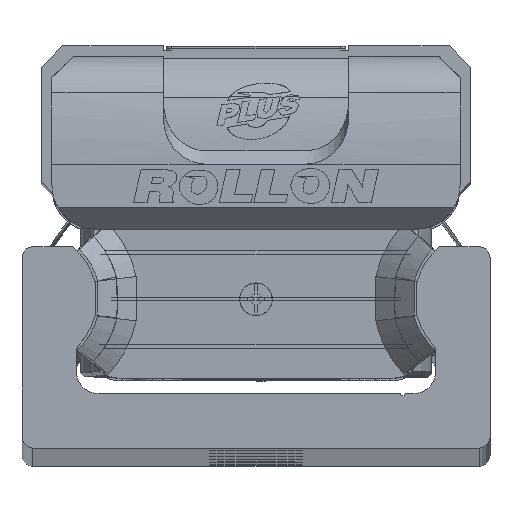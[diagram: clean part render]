
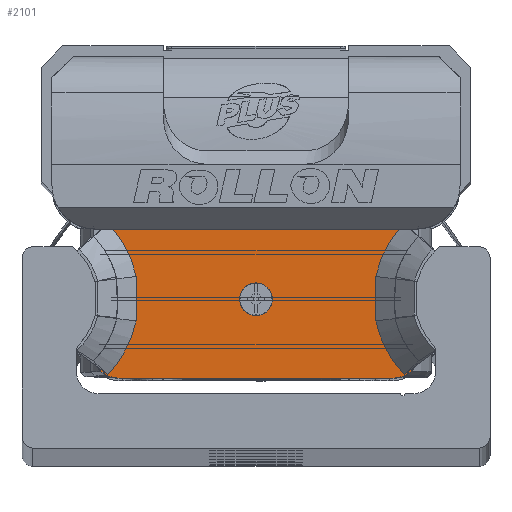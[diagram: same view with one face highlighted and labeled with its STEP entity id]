
A CAD part, top view. The second image highlights one B-rep face of the part: STEP entity #2101.
In plain terms, the highlighted planar face has unit normal (0, 0, 1) as drawn and (0, 0, -1) by its records, which use the part's own axes.
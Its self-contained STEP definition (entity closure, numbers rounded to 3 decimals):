
#2101 = ADVANCED_FACE( '', ( #4333, #4334 ), #4335, .F. );
#4333 = FACE_BOUND( '', #6683, .T. );
#4334 = FACE_OUTER_BOUND( '', #6684, .T. );
#4335 = PLANE( '', #6685 );
#6683 = EDGE_LOOP( '', ( #12362 ) );
#6684 = EDGE_LOOP( '', ( #12363, #12364, #12365, #12366, #12367, #12368, #12369, #12370, #12371, #12372, #12373, #12374 ) );
#6685 = AXIS2_PLACEMENT_3D( '', #12375, #12376, #12377 );
#12362 = ORIENTED_EDGE( '', *, *, #13072, .T. );
#12363 = ORIENTED_EDGE( '', *, *, #14653, .T. );
#12364 = ORIENTED_EDGE( '', *, *, #14231, .F. );
#12365 = ORIENTED_EDGE( '', *, *, #14436, .T. );
#12366 = ORIENTED_EDGE( '', *, *, #14289, .F. );
#12367 = ORIENTED_EDGE( '', *, *, #12973, .T. );
#12368 = ORIENTED_EDGE( '', *, *, #12500, .T. );
#12369 = ORIENTED_EDGE( '', *, *, #14054, .T. );
#12370 = ORIENTED_EDGE( '', *, *, #14543, .T. );
#12371 = ORIENTED_EDGE( '', *, *, #14569, .T. );
#12372 = ORIENTED_EDGE( '', *, *, #14637, .T. );
#12373 = ORIENTED_EDGE( '', *, *, #14506, .T. );
#12374 = ORIENTED_EDGE( '', *, *, #14414, .T. );
#12375 = CARTESIAN_POINT( '', ( 14.9, 7.35, -13.25 ) );
#12376 = DIRECTION( '', ( 0., 0., 1. ) );
#12377 = DIRECTION( '', ( 1., 0., 0. ) );
#12500 = EDGE_CURVE( '', #14758, #14756, #14759, .T. );
#12973 = EDGE_CURVE( '', #15509, #14758, #15586, .T. );
#13072 = EDGE_CURVE( '', #15749, #15749, #15750, .T. );
#14054 = EDGE_CURVE( '', #14756, #17245, #17247, .T. );
#14231 = EDGE_CURVE( '', #17482, #15163, #17484, .T. );
#14289 = EDGE_CURVE( '', #15509, #17553, #17554, .T. );
#14414 = EDGE_CURVE( '', #17699, #17697, #17700, .T. );
#14436 = EDGE_CURVE( '', #17482, #17553, #17727, .T. );
#14506 = EDGE_CURVE( '', #17808, #17699, #17809, .T. );
#14543 = EDGE_CURVE( '', #17245, #17849, #17851, .T. );
#14569 = EDGE_CURVE( '', #17849, #17879, #17881, .T. );
#14637 = EDGE_CURVE( '', #17879, #17808, #17953, .T. );
#14653 = EDGE_CURVE( '', #17697, #15163, #17969, .T. );
#14756 = VERTEX_POINT( '', #18080 );
#14758 = VERTEX_POINT( '', #18083 );
#14759 = B_SPLINE_CURVE_WITH_KNOTS( '', 2, ( #18084, #18085, #18086, #18087, #18088 ), .UNSPECIFIED., .F., .F., ( 3, 2, 3 ), ( 0., 0.5, 1. ), .UNSPECIFIED. );
#15163 = VERTEX_POINT( '', #18594 );
#15509 = VERTEX_POINT( '', #19087 );
#15586 = B_SPLINE_CURVE_WITH_KNOTS( '', 1, ( #19193, #19194 ), .UNSPECIFIED., .F., .F., ( 2, 2 ), ( 0., 1. ), .UNSPECIFIED. );
#15749 = VERTEX_POINT( '', #19413 );
#15750 = CIRCLE( '', #19414, 1.5 );
#17245 = VERTEX_POINT( '', #21629 );
#17247 = B_SPLINE_CURVE_WITH_KNOTS( '', 2, ( #21632, #21633, #21634 ), .UNSPECIFIED., .F., .F., ( 3, 3 ), ( 0., 1. ), .UNSPECIFIED. );
#17482 = VERTEX_POINT( '', #21957 );
#17484 = CIRCLE( '', #21960, 2.5 );
#17553 = VERTEX_POINT( '', #22054 );
#17554 = CIRCLE( '', #22055, 2.5 );
#17697 = VERTEX_POINT( '', #22257 );
#17699 = VERTEX_POINT( '', #22260 );
#17700 = B_SPLINE_CURVE_WITH_KNOTS( '', 2, ( #22261, #22262, #22263, #22264, #22265 ), .UNSPECIFIED., .F., .F., ( 3, 2, 3 ), ( 0., 0.5, 1. ), .UNSPECIFIED. );
#17727 = LINE( '', #22296, #22297 );
#17808 = VERTEX_POINT( '', #22410 );
#17809 = B_SPLINE_CURVE_WITH_KNOTS( '', 2, ( #22411, #22412, #22413 ), .UNSPECIFIED., .F., .F., ( 3, 3 ), ( 0., 1. ), .UNSPECIFIED. );
#17849 = VERTEX_POINT( '', #22464 );
#17851 = B_SPLINE_CURVE_WITH_KNOTS( '', 2, ( #22469, #22470, #22471, #22472, #22473 ), .UNSPECIFIED., .F., .F., ( 3, 2, 3 ), ( 0., 0.5, 0.868 ), .UNSPECIFIED. );
#17879 = VERTEX_POINT( '', #22507 );
#17881 = LINE( '', #22512, #22513 );
#17953 = B_SPLINE_CURVE_WITH_KNOTS( '', 2, ( #22622, #22623, #22624, #22625, #22626 ), .UNSPECIFIED., .F., .F., ( 3, 2, 3 ), ( 0.133, 0.5, 1. ), .UNSPECIFIED. );
#17969 = B_SPLINE_CURVE_WITH_KNOTS( '', 1, ( #22644, #22645 ), .UNSPECIFIED., .F., .F., ( 2, 2 ), ( 0., 1. ), .UNSPECIFIED. );
#18080 = CARTESIAN_POINT( '', ( -11.012, -2.045, -13.25 ) );
#18083 = CARTESIAN_POINT( '', ( -13.628, -6.965, -13.25 ) );
#18084 = CARTESIAN_POINT( '', ( -13.628, -6.965, -13.25 ) );
#18085 = CARTESIAN_POINT( '', ( -12.638, -5.946, -13.25 ) );
#18086 = CARTESIAN_POINT( '', ( -11.97, -4.691, -13.25 ) );
#18087 = CARTESIAN_POINT( '', ( -11.303, -3.437, -13.25 ) );
#18088 = CARTESIAN_POINT( '', ( -11.012, -2.045, -13.25 ) );
#18594 = CARTESIAN_POINT( '', ( 14.906, -5.717, -13.25 ) );
#19087 = CARTESIAN_POINT( '', ( -14.904, -5.718, -13.25 ) );
#19193 = CARTESIAN_POINT( '', ( -14.915, -5.713, -13.25 ) );
#19194 = CARTESIAN_POINT( '', ( -13.628, -6.965, -13.25 ) );
#19413 = CARTESIAN_POINT( '', ( 1.5, -0.05, -13.25 ) );
#19414 = AXIS2_PLACEMENT_3D( '', #23595, #23596, #23597 );
#21629 = CARTESIAN_POINT( '', ( -11.012, 2.045, -13.25 ) );
#21632 = CARTESIAN_POINT( '', ( -11.012, -2.045, -13.25 ) );
#21633 = CARTESIAN_POINT( '', ( -10.888, 0., -13.25 ) );
#21634 = CARTESIAN_POINT( '', ( -11.012, 2.045, -13.25 ) );
#21957 = CARTESIAN_POINT( '', ( 12.58, -7.3, -13.25 ) );
#21960 = AXIS2_PLACEMENT_3D( '', #25080, #25081, #25082 );
#22054 = CARTESIAN_POINT( '', ( -12.58, -7.3, -13.25 ) );
#22055 = AXIS2_PLACEMENT_3D( '', #25127, #25128, #25129 );
#22257 = CARTESIAN_POINT( '', ( 13.628, -6.965, -13.25 ) );
#22260 = CARTESIAN_POINT( '', ( 11.012, -2.045, -13.25 ) );
#22261 = CARTESIAN_POINT( '', ( 11.012, -2.045, -13.25 ) );
#22262 = CARTESIAN_POINT( '', ( 11.301, -3.43, -13.25 ) );
#22263 = CARTESIAN_POINT( '', ( 11.972, -4.69, -13.25 ) );
#22264 = CARTESIAN_POINT( '', ( 12.642, -5.95, -13.25 ) );
#22265 = CARTESIAN_POINT( '', ( 13.628, -6.965, -13.25 ) );
#22296 = CARTESIAN_POINT( '', ( 12.58, -7.3, -13.25 ) );
#22297 = VECTOR( '', #25276, 1000. );
#22410 = CARTESIAN_POINT( '', ( 11.012, 2.045, -13.25 ) );
#22411 = CARTESIAN_POINT( '', ( 11.012, 2.045, -13.25 ) );
#22412 = CARTESIAN_POINT( '', ( 10.888, 0., -13.25 ) );
#22413 = CARTESIAN_POINT( '', ( 11.012, -2.045, -13.25 ) );
#22464 = CARTESIAN_POINT( '', ( -13.119, 6.4, -13.25 ) );
#22469 = CARTESIAN_POINT( '', ( -11.012, 2.045, -13.25 ) );
#22470 = CARTESIAN_POINT( '', ( -11.302, 3.432, -13.25 ) );
#22471 = CARTESIAN_POINT( '', ( -11.967, 4.685, -13.25 ) );
#22472 = CARTESIAN_POINT( '', ( -12.456, 5.606, -13.25 ) );
#22473 = CARTESIAN_POINT( '', ( -13.119, 6.4, -13.25 ) );
#22507 = CARTESIAN_POINT( '', ( 13.12, 6.4, -13.25 ) );
#22512 = CARTESIAN_POINT( '', ( 14.9, 6.4, -13.25 ) );
#22513 = VECTOR( '', #25369, 1000. );
#22622 = CARTESIAN_POINT( '', ( 13.119, 6.4, -13.25 ) );
#22623 = CARTESIAN_POINT( '', ( 12.459, 5.608, -13.25 ) );
#22624 = CARTESIAN_POINT( '', ( 11.968, 4.684, -13.25 ) );
#22625 = CARTESIAN_POINT( '', ( 11.301, 3.427, -13.25 ) );
#22626 = CARTESIAN_POINT( '', ( 11.012, 2.045, -13.25 ) );
#22644 = CARTESIAN_POINT( '', ( 13.628, -6.965, -13.25 ) );
#22645 = CARTESIAN_POINT( '', ( 14.9, -5.728, -13.25 ) );
#23595 = CARTESIAN_POINT( '', ( 0., -0.05, -13.25 ) );
#23596 = DIRECTION( '', ( 0., 0., 1. ) );
#23597 = DIRECTION( '', ( 1., 0., 0. ) );
#25080 = CARTESIAN_POINT( '', ( 12.58, -4.8, -13.25 ) );
#25081 = DIRECTION( '', ( 0., 0., 1. ) );
#25082 = DIRECTION( '', ( 1., 0., 0. ) );
#25127 = CARTESIAN_POINT( '', ( -12.58, -4.8, -13.25 ) );
#25128 = DIRECTION( '', ( 0., 0., 1. ) );
#25129 = DIRECTION( '', ( 1., 0., 0. ) );
#25276 = DIRECTION( '', ( -1., 0., 0. ) );
#25369 = DIRECTION( '', ( 1., 0., 0. ) );
